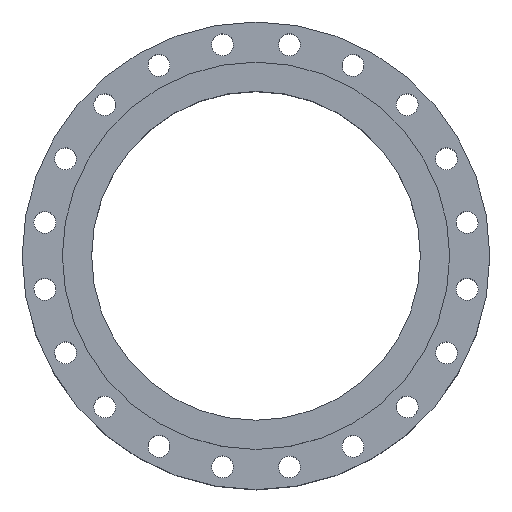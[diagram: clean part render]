
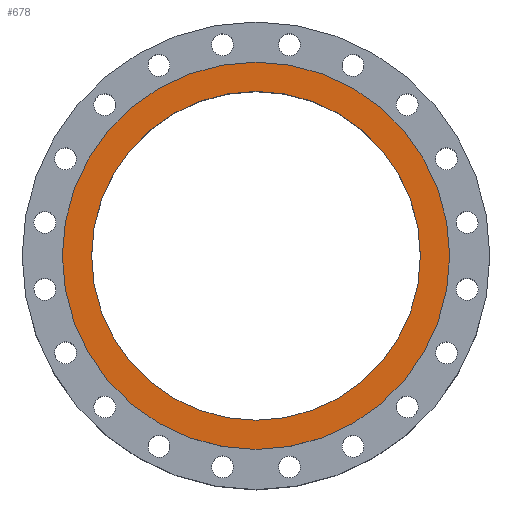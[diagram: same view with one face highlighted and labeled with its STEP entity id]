
A CAD part, top view. The second image highlights one B-rep face of the part: STEP entity #678.
In plain terms, the highlighted planar face has unit normal (0, 0, 1).
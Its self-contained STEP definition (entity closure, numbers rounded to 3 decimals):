
#678=ADVANCED_FACE('',(#1503,#1505),#1507,.T.);
#1503=FACE_BOUND('',#1504,.T.);
#1504=EDGE_LOOP('',(#1836));
#1505=FACE_BOUND('',#1506,.T.);
#1506=EDGE_LOOP('',(#1837));
#1507=PLANE('',#1508);
#1508=AXIS2_PLACEMENT_3D('',#1509,#1510,#1511);
#1509=CARTESIAN_POINT('',(0.,0.,132.5));
#1510=DIRECTION('',(0.,0.,1.));
#1511=DIRECTION('',(0.,1.,0.));
#1836=ORIENTED_EDGE('',*,*,#1984,.F.);
#1837=ORIENTED_EDGE('',*,*,#1986,.T.);
#1984=EDGE_CURVE('',#2246,#2246,#2247,.T.);
#1986=EDGE_CURVE('',#2250,#2250,#2251,.T.);
#2246=VERTEX_POINT('',#3899);
#2247=CIRCLE('',#3900,265.);
#2250=VERTEX_POINT('',#3909);
#2251=CIRCLE('',#3910,225.);
#3899=CARTESIAN_POINT('',(0.,265.,132.5));
#3900=AXIS2_PLACEMENT_3D('',#3901,#3902,#3903);
#3901=CARTESIAN_POINT('',(0.,0.,132.5));
#3902=DIRECTION('',(0.,0.,-1.));
#3903=DIRECTION('',(0.,1.,0.));
#3909=CARTESIAN_POINT('',(0.,225.,132.5));
#3910=AXIS2_PLACEMENT_3D('',#3911,#3912,#3913);
#3911=CARTESIAN_POINT('',(0.,0.,132.5));
#3912=DIRECTION('',(0.,0.,-1.));
#3913=DIRECTION('',(0.,1.,0.));
